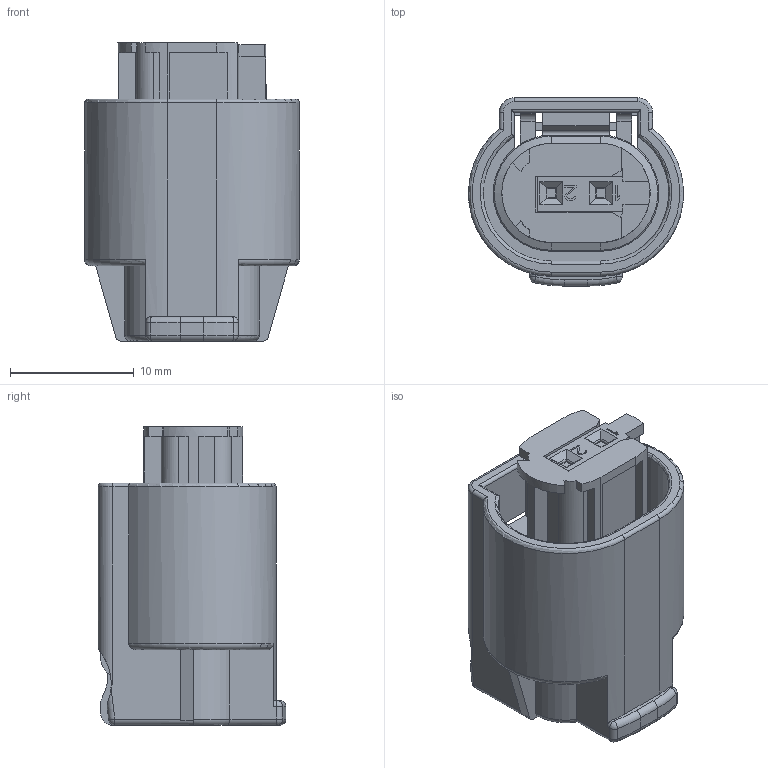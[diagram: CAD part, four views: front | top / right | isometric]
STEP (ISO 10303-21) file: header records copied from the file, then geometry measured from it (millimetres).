
FILE_DESCRIPTION((''),'2;1');
FILE_NAME('C-1-967644-1','2010-02-10T',('workeradm'),(''),'PRO/ENGINEER BY PARAMETRIC TECHNOLOGY CORPORATION, 2008380','PRO/ENGINEER BY PARAMETRIC TECHNOLOGY CORPORATION, 2008380','');
FILE_SCHEMA(('AUTOMOTIVE_DESIGN { 1 0 10303 214 1 1 1 1 }'));
Length unit declared in the file: millimetre
Products named in the file (1): C-1-967644-1
Bounding box: 17.39 x 15.2 x 24.15 mm (x, y, z)
Volume: 2759 mm3; surface area: 3414 mm2
Topology: 1 solids, 1 shells, 485 faces, 1316 edges, 845 vertices
Faces by surface type: plane 308, cylinder 141, torus 23, sphere 8, cone 4, bspline 1
Entity records: 15576 total; most frequent: CARTESIAN_POINT 3133, ORIENTED_EDGE 2632, DIRECTION 2549, EDGE_CURVE 1316, VECTOR 961, LINE 961, VERTEX_POINT 845, AXIS2_PLACEMENT_3D 794
